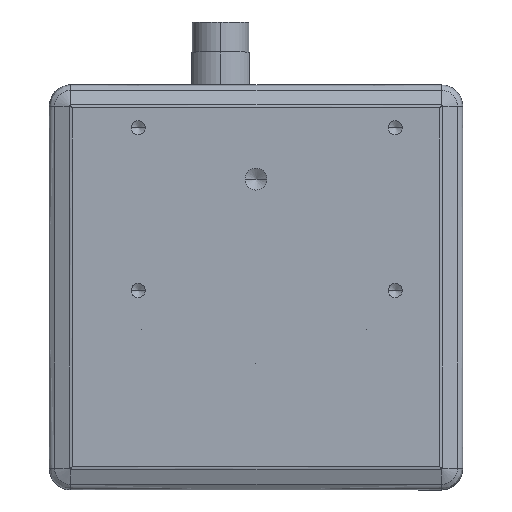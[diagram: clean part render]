
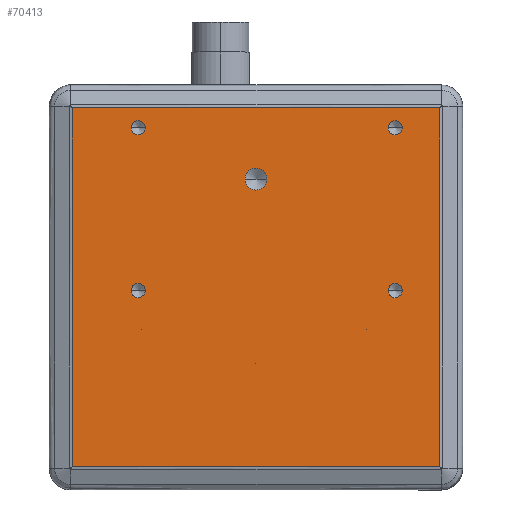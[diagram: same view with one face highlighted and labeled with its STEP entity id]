
A CAD part, top view. The second image highlights one B-rep face of the part: STEP entity #70413.
In plain terms, the highlighted planar face has unit normal (0, 0, 1).
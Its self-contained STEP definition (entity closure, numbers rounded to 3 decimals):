
#489 = ORIENTED_EDGE ( 'NONE', *, *, #43498, .T. ) ;
#1396 = CARTESIAN_POINT ( 'NONE',  ( 309.217, 377.589, 8.5 ) ) ;
#2588 = CARTESIAN_POINT ( 'NONE',  ( 394.947, 377.589, 8.5 ) ) ;
#2734 = CARTESIAN_POINT ( 'NONE',  ( 394.947, 377.589, 8.5 ) ) ;
#4224 = CIRCLE ( 'NONE', #101585, 1.65 ) ;
#5309 = AXIS2_PLACEMENT_3D ( 'NONE', #49170, #87890, #26869 ) ;
#6027 = FACE_BOUND ( 'NONE', #57426, .T. ) ;
#6157 = CARTESIAN_POINT ( 'NONE',  ( 366.37, 293.859, 8.5 ) ) ;
#6704 = CIRCLE ( 'NONE', #38079, 2.553 ) ;
#7307 = CARTESIAN_POINT ( 'NONE',  ( 309.217, 293.859, 8.5 ) ) ;
#8075 = CARTESIAN_POINT ( 'NONE',  ( 326.232, 372.974, 8.5 ) ) ;
#8216 = AXIS2_PLACEMENT_3D ( 'NONE', #31629, #8378, #41442 ) ;
#8378 = DIRECTION ( 'NONE',  ( 0., 0., 1. ) ) ;
#8505 = DIRECTION ( 'NONE',  ( 0., 0., 1. ) ) ;
#8799 = DIRECTION ( 'NONE',  ( 1., 0., 0. ) ) ;
#9976 = EDGE_CURVE ( 'NONE', #80892, #11932, #48917, .T. ) ;
#10034 = DIRECTION ( 'NONE',  ( 1., 0., 0. ) ) ;
#10317 = CIRCLE ( 'NONE', #23491, 1.65 ) ;
#11726 = EDGE_LOOP ( 'NONE', ( #61625, #23405, #95613, #489 ) ) ;
#11932 = VERTEX_POINT ( 'NONE', #7307 ) ;
#11942 = EDGE_CURVE ( 'NONE', #87957, #35364, #6704, .T. ) ;
#13383 = AXIS2_PLACEMENT_3D ( 'NONE', #48618, #79631, #8799 ) ;
#13787 = PLANE ( 'NONE',  #23306 ) ;
#14297 = DIRECTION ( 'NONE',  ( 1., 0., 0. ) ) ;
#14449 = EDGE_CURVE ( 'NONE', #56573, #87084, #53821, .T. ) ;
#14777 = ORIENTED_EDGE ( 'NONE', *, *, #14449, .F. ) ;
#14780 = CARTESIAN_POINT ( 'NONE',  ( 322.932, 334.974, 8.5 ) ) ;
#16938 = CARTESIAN_POINT ( 'NONE',  ( 386.232, 372.974, 8.5 ) ) ;
#19502 = ORIENTED_EDGE ( 'NONE', *, *, #26241, .F. ) ;
#21104 = CARTESIAN_POINT ( 'NONE',  ( 309.217, 321.769, 8.5 ) ) ;
#21506 = FACE_BOUND ( 'NONE', #55268, .T. ) ;
#21801 = DIRECTION ( 'NONE',  ( 0., 0., 1. ) ) ;
#22018 = EDGE_CURVE ( 'NONE', #35364, #87957, #60939, .T. ) ;
#22536 = FACE_BOUND ( 'NONE', #54346, .T. ) ;
#23306 = AXIS2_PLACEMENT_3D ( 'NONE', #45338, #85079, #14297 ) ;
#23387 = CARTESIAN_POINT ( 'NONE',  ( 394.947, 293.859, 8.5 ) ) ;
#23405 = ORIENTED_EDGE ( 'NONE', *, *, #35067, .T. ) ;
#23474 = CARTESIAN_POINT ( 'NONE',  ( 324.582, 372.974, 8.5 ) ) ;
#23491 = AXIS2_PLACEMENT_3D ( 'NONE', #88071, #8505, #10034 ) ;
#26241 = EDGE_CURVE ( 'NONE', #83406, #61435, #31705, .T. ) ;
#26869 = DIRECTION ( 'NONE',  ( 1., 0., 0. ) ) ;
#26901 = EDGE_CURVE ( 'NONE', #95831, #73481, #10317, .T. ) ;
#27283 = CARTESIAN_POINT ( 'NONE',  ( 386.232, 334.974, 8.5 ) ) ;
#27353 = CARTESIAN_POINT ( 'NONE',  ( 309.217, 377.589, 8.5 ) ) ;
#28484 = CARTESIAN_POINT ( 'NONE',  ( 349.529, 360.974, 8.5 ) ) ;
#28855 = CARTESIAN_POINT ( 'NONE',  ( 309.217, 293.859, 8.5 ) ) ;
#29380 = CARTESIAN_POINT ( 'NONE',  ( 309.217, 293.859, 8.5 ) ) ;
#29805 = DIRECTION ( 'NONE',  ( 1., 0., 0. ) ) ;
#30290 = EDGE_CURVE ( 'NONE', #73481, #95831, #38795, .T. ) ;
#30356 = VERTEX_POINT ( 'NONE', #73774 ) ;
#30711 = AXIS2_PLACEMENT_3D ( 'NONE', #70122, #46399, #29805 ) ;
#31362 = EDGE_CURVE ( 'NONE', #60495, #44179, #81772, .T. ) ;
#31629 = CARTESIAN_POINT ( 'NONE',  ( 352.082, 360.974, 8.5 ) ) ;
#31705 = CIRCLE ( 'NONE', #46558, 1.65 ) ;
#32951 = CARTESIAN_POINT ( 'NONE',  ( 326.232, 334.974, 8.5 ) ) ;
#33092 = CARTESIAN_POINT ( 'NONE',  ( 366.37, 377.589, 8.5 ) ) ;
#33292 = DIRECTION ( 'NONE',  ( 1., 0., 0. ) ) ;
#34428 = ORIENTED_EDGE ( 'NONE', *, *, #26901, .F. ) ;
#34509 = CARTESIAN_POINT ( 'NONE',  ( 384.582, 334.974, 8.5 ) ) ;
#35067 = EDGE_CURVE ( 'NONE', #11932, #60495, #73773, .T. ) ;
#35364 = VERTEX_POINT ( 'NONE', #72140 ) ;
#35404 = AXIS2_PLACEMENT_3D ( 'NONE', #59103, #21801, #76116 ) ;
#38079 = AXIS2_PLACEMENT_3D ( 'NONE', #47132, #95651, #54860 ) ;
#38080 = CARTESIAN_POINT ( 'NONE',  ( 394.947, 293.859, 8.5 ) ) ;
#38729 = CARTESIAN_POINT ( 'NONE',  ( 394.947, 293.859, 8.5 ) ) ;
#38795 = CIRCLE ( 'NONE', #50332, 1.65 ) ;
#39131 = FACE_BOUND ( 'NONE', #95229, .T. ) ;
#40411 = EDGE_CURVE ( 'NONE', #93135, #30356, #4224, .T. ) ;
#41442 = DIRECTION ( 'NONE',  ( 1., 0., 0. ) ) ;
#43498 = EDGE_CURVE ( 'NONE', #44179, #80892, #50423, .T. ) ;
#44179 = VERTEX_POINT ( 'NONE', #2734 ) ;
#45338 = CARTESIAN_POINT ( 'NONE',  ( 0., 0., 8.5 ) ) ;
#46399 = DIRECTION ( 'NONE',  ( 0., 0., 1. ) ) ;
#46558 = AXIS2_PLACEMENT_3D ( 'NONE', #47553, #84343, #63024 ) ;
#47132 = CARTESIAN_POINT ( 'NONE',  ( 352.082, 360.974, 8.5 ) ) ;
#47553 = CARTESIAN_POINT ( 'NONE',  ( 324.582, 334.974, 8.5 ) ) ;
#48618 = CARTESIAN_POINT ( 'NONE',  ( 384.582, 372.974, 8.5 ) ) ;
#48917 = B_SPLINE_CURVE_WITH_KNOTS ( 'NONE', 3,
 ( #27353, #58910, #21104, #28855 ),
 .UNSPECIFIED., .F., .F.,
 ( 4, 4 ),
 ( 0.005, 0.995 ),
 .UNSPECIFIED. ) ;
#49170 = CARTESIAN_POINT ( 'NONE',  ( 324.582, 334.974, 8.5 ) ) ;
#50332 = AXIS2_PLACEMENT_3D ( 'NONE', #34509, #72742, #88761 ) ;
#50423 = B_SPLINE_CURVE_WITH_KNOTS ( 'NONE', 3,
 ( #2588, #33092, #96624, #57875 ),
 .UNSPECIFIED., .F., .F.,
 ( 4, 4 ),
 ( 0.004, 0.996 ),
 .UNSPECIFIED. ) ;
#53046 = ORIENTED_EDGE ( 'NONE', *, *, #89996, .F. ) ;
#53821 = CIRCLE ( 'NONE', #30711, 1.65 ) ;
#54346 = EDGE_LOOP ( 'NONE', ( #19502, #68721 ) ) ;
#54860 = DIRECTION ( 'NONE',  ( 1., 0., 0. ) ) ;
#55268 = EDGE_LOOP ( 'NONE', ( #14777, #86319 ) ) ;
#56573 = VERTEX_POINT ( 'NONE', #16938 ) ;
#57426 = EDGE_LOOP ( 'NONE', ( #92762, #60056 ) ) ;
#57875 = CARTESIAN_POINT ( 'NONE',  ( 309.217, 377.589, 8.5 ) ) ;
#58330 = EDGE_CURVE ( 'NONE', #87084, #56573, #81074, .T. ) ;
#58910 = CARTESIAN_POINT ( 'NONE',  ( 309.217, 349.679, 8.5 ) ) ;
#59103 = CARTESIAN_POINT ( 'NONE',  ( 324.582, 372.974, 8.5 ) ) ;
#60056 = ORIENTED_EDGE ( 'NONE', *, *, #11942, .F. ) ;
#60495 = VERTEX_POINT ( 'NONE', #23387 ) ;
#60930 = CARTESIAN_POINT ( 'NONE',  ( 337.794, 293.859, 8.5 ) ) ;
#60939 = CIRCLE ( 'NONE', #8216, 2.553 ) ;
#61435 = VERTEX_POINT ( 'NONE', #14780 ) ;
#61625 = ORIENTED_EDGE ( 'NONE', *, *, #9976, .T. ) ;
#63024 = DIRECTION ( 'NONE',  ( 1., 0., 0. ) ) ;
#65746 = CARTESIAN_POINT ( 'NONE',  ( 382.932, 334.974, 8.5 ) ) ;
#67895 = EDGE_LOOP ( 'NONE', ( #83303, #53046 ) ) ;
#68721 = ORIENTED_EDGE ( 'NONE', *, *, #69586, .F. ) ;
#69586 = EDGE_CURVE ( 'NONE', #61435, #83406, #99336, .T. ) ;
#70122 = CARTESIAN_POINT ( 'NONE',  ( 384.582, 372.974, 8.5 ) ) ;
#70413 = ADVANCED_FACE ( 'NONE', ( #6027, #92297, #21506, #39131, #22536, #84574 ), #13787, .T. ) ;
#71010 = DIRECTION ( 'NONE',  ( 0., 0., 1. ) ) ;
#72140 = CARTESIAN_POINT ( 'NONE',  ( 354.635, 360.974, 8.5 ) ) ;
#72742 = DIRECTION ( 'NONE',  ( 0., 0., 1. ) ) ;
#73481 = VERTEX_POINT ( 'NONE', #65746 ) ;
#73773 = B_SPLINE_CURVE_WITH_KNOTS ( 'NONE', 3,
 ( #29380, #60930, #6157, #38729 ),
 .UNSPECIFIED., .F., .F.,
 ( 4, 4 ),
 ( 0.004, 0.996 ),
 .UNSPECIFIED. ) ;
#73774 = CARTESIAN_POINT ( 'NONE',  ( 322.932, 372.974, 8.5 ) ) ;
#76116 = DIRECTION ( 'NONE',  ( 1., 0., 0. ) ) ;
#79165 = CARTESIAN_POINT ( 'NONE',  ( 382.932, 372.974, 8.5 ) ) ;
#79631 = DIRECTION ( 'NONE',  ( 0., 0., 1. ) ) ;
#79699 = ORIENTED_EDGE ( 'NONE', *, *, #30290, .F. ) ;
#80892 = VERTEX_POINT ( 'NONE', #1396 ) ;
#81074 = CIRCLE ( 'NONE', #13383, 1.65 ) ;
#81772 = B_SPLINE_CURVE_WITH_KNOTS ( 'NONE', 3,
 ( #38080, #84577, #101610, #92300 ),
 .UNSPECIFIED., .F., .F.,
 ( 4, 4 ),
 ( 0.005, 0.995 ),
 .UNSPECIFIED. ) ;
#83303 = ORIENTED_EDGE ( 'NONE', *, *, #40411, .F. ) ;
#83406 = VERTEX_POINT ( 'NONE', #32951 ) ;
#84343 = DIRECTION ( 'NONE',  ( 0., 0., 1. ) ) ;
#84574 = FACE_OUTER_BOUND ( 'NONE', #11726, .T. ) ;
#84577 = CARTESIAN_POINT ( 'NONE',  ( 394.947, 321.769, 8.5 ) ) ;
#85079 = DIRECTION ( 'NONE',  ( 0., 0., 1. ) ) ;
#86319 = ORIENTED_EDGE ( 'NONE', *, *, #58330, .F. ) ;
#87084 = VERTEX_POINT ( 'NONE', #79165 ) ;
#87890 = DIRECTION ( 'NONE',  ( 0., 0., 1. ) ) ;
#87957 = VERTEX_POINT ( 'NONE', #28484 ) ;
#88071 = CARTESIAN_POINT ( 'NONE',  ( 384.582, 334.974, 8.5 ) ) ;
#88761 = DIRECTION ( 'NONE',  ( 1., 0., 0. ) ) ;
#89996 = EDGE_CURVE ( 'NONE', #30356, #93135, #91422, .T. ) ;
#91422 = CIRCLE ( 'NONE', #35404, 1.65 ) ;
#92297 = FACE_BOUND ( 'NONE', #67895, .T. ) ;
#92300 = CARTESIAN_POINT ( 'NONE',  ( 394.947, 377.589, 8.5 ) ) ;
#92762 = ORIENTED_EDGE ( 'NONE', *, *, #22018, .F. ) ;
#93135 = VERTEX_POINT ( 'NONE', #8075 ) ;
#95229 = EDGE_LOOP ( 'NONE', ( #34428, #79699 ) ) ;
#95613 = ORIENTED_EDGE ( 'NONE', *, *, #31362, .T. ) ;
#95651 = DIRECTION ( 'NONE',  ( 0., 0., 1. ) ) ;
#95831 = VERTEX_POINT ( 'NONE', #27283 ) ;
#96624 = CARTESIAN_POINT ( 'NONE',  ( 337.794, 377.589, 8.5 ) ) ;
#99336 = CIRCLE ( 'NONE', #5309, 1.65 ) ;
#101585 = AXIS2_PLACEMENT_3D ( 'NONE', #23474, #71010, #33292 ) ;
#101610 = CARTESIAN_POINT ( 'NONE',  ( 394.947, 349.679, 8.5 ) ) ;
